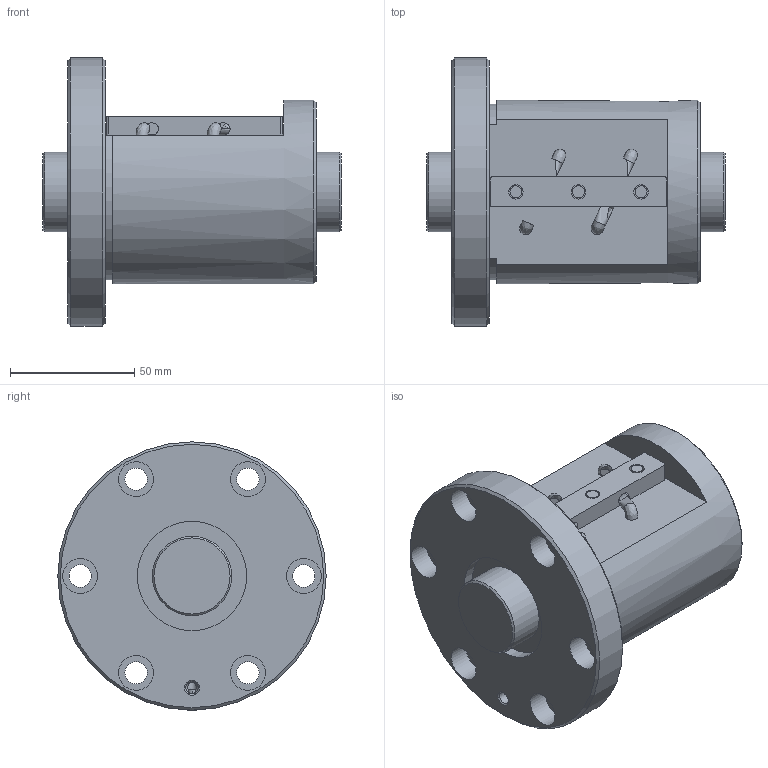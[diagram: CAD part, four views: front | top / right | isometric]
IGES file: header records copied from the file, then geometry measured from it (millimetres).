
Start section: Data from Parasolid IGES Translator 26.0.171, Copyright(c) 2006 Siemens PLM Software. All Rights Reserved.
Global section: file name: BNF3210V-5RRG1+120LC0_000_rev.igs; native system: By Siemens PLM Incorporated; preprocessor: XPlus GENERIC/IGES 26.0.171; author: Noname; organization: Noname; date: 20240806.083754; units: millimetre
Bounding box: 120 x 108 x 108 mm (x, y, z)
Surface area: 71176.9 mm2 (no closed solid volume)
Topology: 0 solids, 0 shells, 79 faces, 346 edges, 300 vertices
Faces by surface type: revolution 50, extrusion 29
